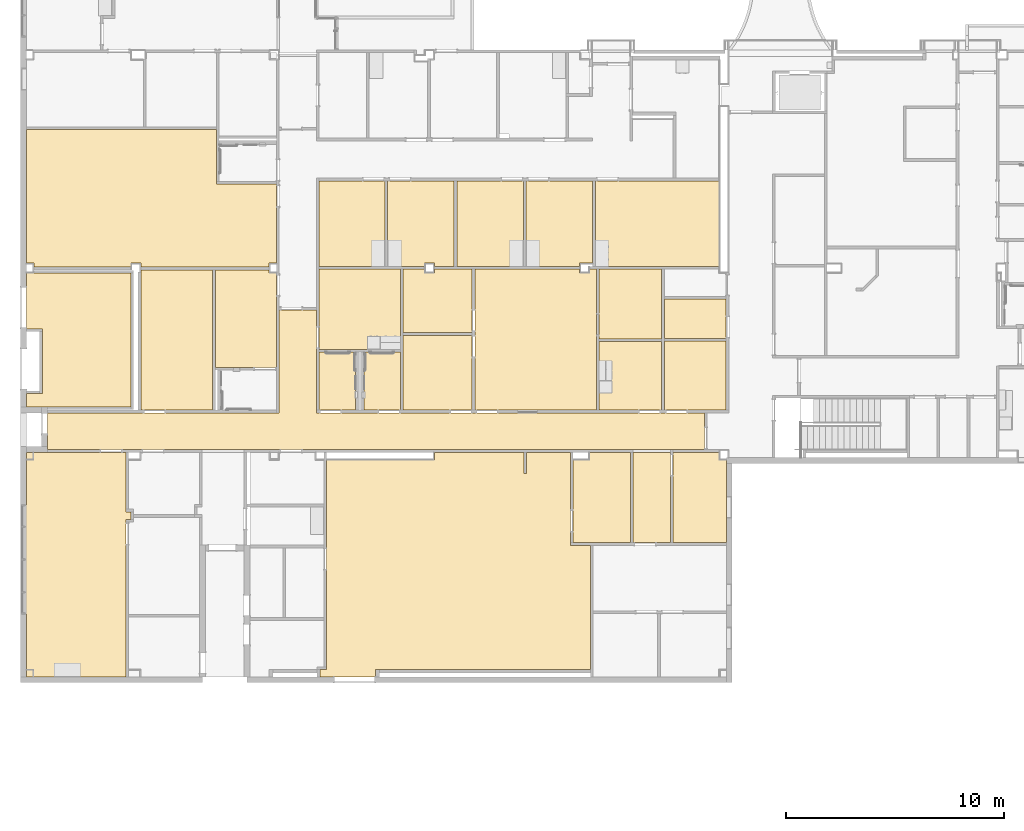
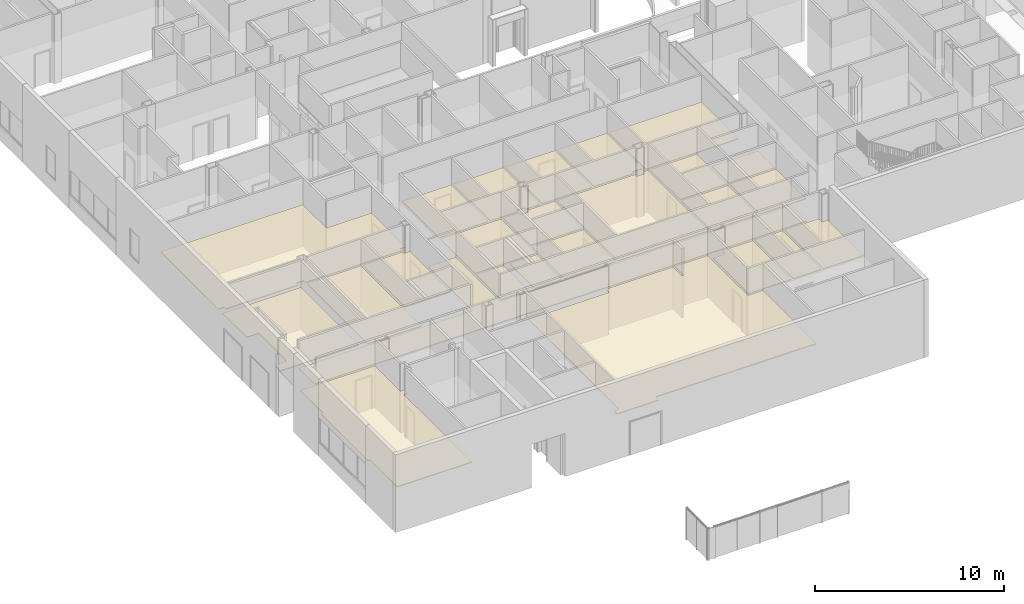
# One storey, part 49 of 87: 25 coverings.
"""IFC2X3 building model written with IfcOpenShell, lengths in metres."""

from ifc_helpers import new_model, entity, si_unit, converted_unit, origin, place, context, project, spatial, face_set, surface_model, material, layer, layer_set, layer_usage, element, save


model = new_model("IFC2X3")

# Units and contexts
model_context = context("Model", 3, precision=1e-09, world=origin())
plan_context = context("Plan", 3, precision=1e-09, world=origin())
ifc_project = project(units=[si_unit("LENGTHUNIT", "METRE"), si_unit("AREAUNIT", "SQUARE_METRE"), si_unit("VOLUMEUNIT", "CUBIC_METRE"), converted_unit("PLANEANGLEUNIT", "DEGREE", entity("IfcRatioMeasure", 0.01745329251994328), si_unit("PLANEANGLEUNIT", "RADIAN"), dimensions=[0, 0, 0, 0, 0, 0, 0]), si_unit("TIMEUNIT", "SECOND")], contexts=[model_context, plan_context])

# Site, building, storey
site_placement = place(None, origin())
site = spatial("IfcSite", under=ifc_project, at=site_placement, Name="Default", CompositionType="ELEMENT")
building_placement = place(site_placement, origin())
building = spatial("IfcBuilding", under=site, at=building_placement, CompositionType="ELEMENT")
storey_placement = place(building_placement, origin())
storey = spatial("IfcBuildingStorey", under=building, at=storey_placement, Name="First Floor", CompositionType="ELEMENT", Elevation=-3.531500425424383e-13)

# Coverings
ifc_material_1 = material(Name="Default")
ifc_layer_1 = layer(ifc_material_1, 0.03599999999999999)
ifc_material_2 = material(Name="Ceiling Tile 600 x 600")
ifc_layer_2 = layer(ifc_material_2, 0.016)
ifc_layer_set = layer_set([ifc_layer_1, ifc_layer_2], Name="Compound Ceiling:ACT 600 x 600mm Grid")
ifc_layer_usage_1 = layer_usage(ifc_layer_set, "AXIS3", "NEGATIVE", 0.0)
covering_1_placement = place(storey_placement, origin())
element("IfcCovering", 1, at=covering_1_placement, inside=storey, material=ifc_layer_usage_1, Name="Compound Ceiling:ACT 600 x 600mm Grid", ObjectType="Compound Ceiling:ACT 600 x 600mm Grid", PredefinedType="CEILING", context=model_context, shape_type="SurfaceModel", body=[
    surface_model("IfcFaceBasedSurfaceModel", [(-51.67000000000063, 18.83999999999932, 2.732), (-52.01300000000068, 18.83999999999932, 2.732), (-52.01300000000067, 24.95999999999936, 2.732), (-43.31000000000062, 24.95999999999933, 2.732), (-43.31000000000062, 22.45999999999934, 2.732), (-40.55400000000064, 22.45999999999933, 2.732), (-40.55400000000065, 18.83999999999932, 2.732), (-40.89000000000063, 18.83999999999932, 2.732), (-40.89000000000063, 18.64999999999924, 2.732), (-46.77000000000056, 18.64999999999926, 2.732), (-46.77000000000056, 18.83999999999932, 2.732), (-47.23000000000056, 18.83999999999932, 2.732), (-47.23000000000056, 18.64999999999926, 2.732), (-51.67000000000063, 18.64999999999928, 2.732), (-51.67000000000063, 18.83999999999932, 2.68), (-52.01300000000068, 18.83999999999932, 2.68), (-52.01300000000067, 24.95999999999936, 2.68), (-43.31000000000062, 24.95999999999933, 2.68), (-43.31000000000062, 22.45999999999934, 2.68), (-40.55400000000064, 22.45999999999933, 2.68), (-40.55400000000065, 18.83999999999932, 2.68), (-40.89000000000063, 18.83999999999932, 2.68), (-40.89000000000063, 18.64999999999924, 2.68), (-46.77000000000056, 18.64999999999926, 2.68), (-46.77000000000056, 18.83999999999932, 2.68), (-47.23000000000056, 18.83999999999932, 2.68), (-47.23000000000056, 18.64999999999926, 2.68), (-51.67000000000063, 18.64999999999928, 2.68)], [face_set([[[0, 1, 2, 3, 4, 5, 6, 7, 8, 9, 10, 11, 12, 13]], [[14, 15, 16, 17, 18, 19, 20, 21, 22, 23, 24, 25, 26, 27]], [[13, 27, 14, 0]], [[12, 13, 27, 26]], [[11, 12, 26, 25]], [[10, 11, 25, 24]], [[9, 23, 24, 10]], [[8, 9, 23, 22]], [[7, 8, 22, 21]], [[6, 7, 21, 20]], [[5, 6, 20, 19]], [[4, 18, 19, 5]], [[3, 4, 18, 17]], [[2, 16, 17, 3]], [[1, 15, 16, 2]], [[0, 1, 15, 14]]])]),
])
ifc_layer_usage_2 = layer_usage(ifc_layer_set, "AXIS3", "NEGATIVE", 0.0)
covering_2_placement = place(storey_placement, origin())
element("IfcCovering", 2, at=covering_2_placement, inside=storey, material=ifc_layer_usage_2, Name="Compound Ceiling:ACT 600 x 600mm Grid", ObjectType="Compound Ceiling:ACT 600 x 600mm Grid", PredefinedType="CEILING", context=model_context, shape_type="SurfaceModel", body=[
    surface_model("IfcFaceBasedSurfaceModel", [(-47.23000000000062, 12.24699999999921, 2.732), (-51.18250000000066, 12.24699999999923, 2.732), (-52.01300000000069, 12.24699999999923, 2.732), (-52.01300000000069, 12.85999999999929, 2.732), (-51.28000000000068, 12.85999999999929, 2.732), (-51.28000000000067, 15.8297999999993, 2.732), (-52.01300000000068, 15.8297999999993, 2.732), (-52.01300000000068, 18.37999999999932, 2.732), (-47.2300000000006, 18.37999999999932, 2.732), (-47.23000000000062, 12.24699999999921, 2.68), (-51.18250000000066, 12.24699999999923, 2.68), (-52.01300000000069, 12.24699999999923, 2.68), (-52.01300000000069, 12.85999999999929, 2.68), (-51.28000000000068, 12.85999999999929, 2.68), (-51.28000000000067, 15.8297999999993, 2.68), (-52.01300000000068, 15.8297999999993, 2.68), (-52.01300000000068, 18.37999999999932, 2.68), (-47.2300000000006, 18.37999999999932, 2.68)], [face_set([[[0, 1, 2, 3, 4, 5, 6, 7, 8]], [[9, 10, 11, 12, 13, 14, 15, 16, 17]], [[8, 0, 9, 17]], [[7, 16, 17, 8]], [[6, 15, 16, 7]], [[5, 6, 15, 14]], [[4, 13, 14, 5]], [[3, 12, 13, 4]], [[2, 11, 12, 3]], [[1, 2, 11, 10]], [[0, 1, 10, 9]]])]),
])
ifc_layer_usage_3 = layer_usage(ifc_layer_set, "AXIS3", "NEGATIVE", 0.0)
covering_3_placement = place(storey_placement, origin())
element("IfcCovering", 3, at=covering_3_placement, inside=storey, material=ifc_layer_usage_3, Name="Compound Ceiling:ACT 600 x 600mm Grid", ObjectType="Compound Ceiling:ACT 600 x 600mm Grid", PredefinedType="CEILING", context=model_context, shape_type="SurfaceModel", body=[
    surface_model("IfcFaceBasedSurfaceModel", [(-46.77000000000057, 12.10399999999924, 2.732), (-46.77000000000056, 18.52599999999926, 2.732), (-43.4780000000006, 18.52599999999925, 2.732), (-43.47800000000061, 12.10399999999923, 2.732), (-46.77000000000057, 12.10399999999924, 2.68), (-46.77000000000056, 18.52599999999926, 2.68), (-43.4780000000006, 18.52599999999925, 2.68), (-43.47800000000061, 12.10399999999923, 2.68)], [face_set([[[0, 1, 2, 3]], [[4, 5, 6, 7]], [[3, 0, 4, 7]], [[2, 3, 7, 6]], [[1, 5, 6, 2]], [[0, 4, 5, 1]]])]),
])
ifc_layer_usage_4 = layer_usage(ifc_layer_set, "AXIS3", "NEGATIVE", 0.0)
covering_4_placement = place(storey_placement, origin())
element("IfcCovering", 4, at=covering_4_placement, inside=storey, material=ifc_layer_usage_4, Name="Compound Ceiling:ACT 600 x 600mm Grid", ObjectType="Compound Ceiling:ACT 600 x 600mm Grid", PredefinedType="CEILING", context=model_context, shape_type="SurfaceModel", body=[
    surface_model("IfcFaceBasedSurfaceModel", [(-47.45000000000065, 7.089999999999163, 2.732), (-47.45000000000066, -0.1130000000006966, 2.732), (-52.01300000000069, -0.1130000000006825, 2.732), (-52.01300000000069, 2.759486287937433, 2.732), (-52.14650000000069, 2.759486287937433, 2.732), (-52.14650000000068, 7.759999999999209, 2.732), (-52.01300000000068, 7.759999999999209, 2.732), (-52.01300000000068, 10.16299999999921, 2.732), (-51.18250000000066, 10.16299999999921, 2.732), (-47.45000000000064, 10.16299999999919, 2.732), (-47.45000000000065, 7.439999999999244, 2.732), (-47.22000000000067, 7.439999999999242, 2.732), (-47.22000000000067, 7.089999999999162, 2.732), (-47.45000000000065, 7.089999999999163, 2.68), (-47.45000000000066, -0.1130000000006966, 2.68), (-52.01300000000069, -0.1130000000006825, 2.68), (-52.01300000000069, 2.759486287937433, 2.68), (-52.14650000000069, 2.759486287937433, 2.68), (-52.14650000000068, 7.759999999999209, 2.68), (-52.01300000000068, 7.759999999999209, 2.68), (-52.01300000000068, 10.16299999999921, 2.68), (-51.18250000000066, 10.16299999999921, 2.68), (-47.45000000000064, 10.16299999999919, 2.68), (-47.45000000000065, 7.439999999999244, 2.68), (-47.22000000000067, 7.439999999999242, 2.68), (-47.22000000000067, 7.089999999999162, 2.68)], [face_set([[[0, 1, 2, 3, 4, 5, 6, 7, 8, 9, 10, 11, 12]], [[13, 14, 15, 16, 17, 18, 19, 20, 21, 22, 23, 24, 25]], [[12, 0, 13, 25]], [[11, 12, 25, 24]], [[10, 23, 24, 11]], [[9, 10, 23, 22]], [[8, 21, 22, 9]], [[7, 20, 21, 8]], [[6, 19, 20, 7]], [[5, 18, 19, 6]], [[4, 17, 18, 5]], [[3, 4, 17, 16]], [[2, 15, 16, 3]], [[1, 2, 15, 14]], [[0, 1, 14, 13]]])]),
])
ifc_layer_usage_5 = layer_usage(ifc_layer_set, "AXIS3", "NEGATIVE", 0.0)
covering_5_placement = place(storey_placement, origin())
element("IfcCovering", 5, at=covering_5_placement, inside=storey, material=ifc_layer_usage_5, Name="Compound Ceiling:ACT 600 x 600mm Grid", ObjectType="Compound Ceiling:ACT 600 x 600mm Grid", PredefinedType="CEILING", context=model_context, shape_type="SurfaceModel", body=[
    surface_model("IfcFaceBasedSurfaceModel", [(-24.34400000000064, 6.03399999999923, 2.732), (-26.96640000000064, 6.033999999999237, 2.732), (-26.96640000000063, 9.809999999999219, 2.732), (-26.21000000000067, 9.809999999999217, 2.732), (-26.21000000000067, 10.16299999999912, 2.732), (-24.34400000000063, 10.16299999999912, 2.732), (-24.34400000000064, 6.03399999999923, 2.68), (-26.96640000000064, 6.033999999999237, 2.68), (-26.96640000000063, 9.809999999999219, 2.68), (-26.21000000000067, 9.809999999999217, 2.68), (-26.21000000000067, 10.16299999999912, 2.68), (-24.34400000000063, 10.16299999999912, 2.68)], [face_set([[[0, 1, 2, 3, 4, 5]], [[6, 7, 8, 9, 10, 11]], [[5, 0, 6, 11]], [[4, 10, 11, 5]], [[3, 9, 10, 4]], [[2, 8, 9, 3]], [[1, 7, 8, 2]], [[0, 1, 7, 6]]])]),
])
ifc_layer_usage_6 = layer_usage(ifc_layer_set, "AXIS3", "NEGATIVE", 0.0)
covering_6_placement = place(storey_placement, origin())
element("IfcCovering", 6, at=covering_6_placement, inside=storey, material=ifc_layer_usage_6, Name="Compound Ceiling:ACT 600 x 600mm Grid", ObjectType="Compound Ceiling:ACT 600 x 600mm Grid", PredefinedType="CEILING", context=model_context, shape_type="SurfaceModel", body=[
    surface_model("IfcFaceBasedSurfaceModel", [(-20.29000000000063, 9.809999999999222, 2.732), (-19.94700000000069, 9.80999999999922, 2.732), (-19.94700000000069, 6.033999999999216, 2.732), (-22.38600000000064, 6.033999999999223, 2.732), (-22.38600000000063, 10.16299999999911, 2.732), (-20.29000000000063, 10.1629999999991, 2.732), (-20.29000000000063, 9.809999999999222, 2.68), (-19.94700000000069, 9.80999999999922, 2.68), (-19.94700000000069, 6.033999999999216, 2.68), (-22.38600000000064, 6.033999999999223, 2.68), (-22.38600000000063, 10.16299999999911, 2.68), (-20.29000000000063, 10.1629999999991, 2.68)], [face_set([[[0, 1, 2, 3, 4, 5]], [[6, 7, 8, 9, 10, 11]], [[5, 0, 6, 11]], [[4, 10, 11, 5]], [[3, 9, 10, 4]], [[2, 3, 9, 8]], [[1, 2, 8, 7]], [[0, 6, 7, 1]]])]),
])
ifc_layer_usage_7 = layer_usage(ifc_layer_set, "AXIS3", "NEGATIVE", 0.0)
covering_7_placement = place(storey_placement, origin())
element("IfcCovering", 7, at=covering_7_placement, inside=storey, material=ifc_layer_usage_7, Name="Compound Ceiling:ACT 600 x 600mm Grid", ObjectType="Compound Ceiling:ACT 600 x 600mm Grid", PredefinedType="CEILING", context=model_context, shape_type="SurfaceModel", body=[
    surface_model("IfcFaceBasedSurfaceModel", [(-36.01040000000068, 0.2299999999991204, 2.732), (-36.01040000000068, -0.1130000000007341, 2.732), (-38.57040000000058, -0.1130000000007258, 2.732), (-38.57040000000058, 0.2147282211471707, 2.732), (-38.25539926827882, 0.2147282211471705, 2.732), (-38.25539926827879, 9.809999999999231, 2.732), (-33.32000000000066, 9.809999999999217, 2.732), (-33.32000000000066, 10.16299999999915, 2.732), (-29.21440000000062, 10.16299999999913, 2.732), (-29.21440000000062, 9.209999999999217, 2.732), (-29.09040000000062, 9.209999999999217, 2.732), (-29.09040000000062, 10.16299999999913, 2.732), (-27.09040000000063, 10.16299999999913, 2.732), (-27.09040000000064, 5.909999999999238, 2.732), (-26.17400000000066, 5.909999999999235, 2.732), (-26.17400000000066, 0.2299999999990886, 2.732), (-36.01040000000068, 0.2299999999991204, 2.68), (-36.01040000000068, -0.1130000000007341, 2.68), (-38.57040000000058, -0.1130000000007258, 2.68), (-38.57040000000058, 0.2147282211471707, 2.68), (-38.25539926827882, 0.2147282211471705, 2.68), (-38.25539926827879, 9.809999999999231, 2.68), (-33.32000000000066, 9.809999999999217, 2.68), (-33.32000000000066, 10.16299999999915, 2.68), (-29.21440000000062, 10.16299999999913, 2.68), (-29.21440000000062, 9.209999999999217, 2.68), (-29.09040000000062, 9.209999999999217, 2.68), (-29.09040000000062, 10.16299999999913, 2.68), (-27.09040000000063, 10.16299999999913, 2.68), (-27.09040000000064, 5.909999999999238, 2.68), (-26.17400000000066, 5.909999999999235, 2.68), (-26.17400000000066, 0.229999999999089, 2.68)], [face_set([[[0, 1, 2, 3, 4, 5, 6, 7, 8, 9, 10, 11, 12, 13, 14, 15]], [[16, 17, 18, 19, 20, 21, 22, 23, 24, 25, 26, 27, 28, 29, 30, 31]], [[15, 0, 16, 31]], [[14, 15, 31, 30]], [[13, 29, 30, 14]], [[12, 13, 29, 28]], [[11, 27, 28, 12]], [[10, 26, 27, 11]], [[9, 25, 26, 10]], [[8, 9, 25, 24]], [[7, 23, 24, 8]], [[6, 22, 23, 7]], [[5, 21, 22, 6]], [[4, 20, 21, 5]], [[3, 19, 20, 4]], [[2, 18, 19, 3]], [[1, 2, 18, 17]], [[0, 1, 17, 16]]])]),
])
ifc_layer_usage_8 = layer_usage(ifc_layer_set, "AXIS3", "NEGATIVE", 0.0)
covering_8_placement = place(storey_placement, origin())
element("IfcCovering", 8, at=covering_8_placement, inside=storey, material=ifc_layer_usage_8, Name="Compound Ceiling:ACT 600 x 600mm Grid", ObjectType="Compound Ceiling:ACT 600 x 600mm Grid", PredefinedType="CEILING", context=model_context, shape_type="SurfaceModel", body=[
    surface_model("IfcFaceBasedSurfaceModel", [(-34.87400000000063, 14.8899999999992, 2.732), (-38.59600000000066, 14.88999999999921, 2.732), (-38.59600000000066, 18.55999999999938, 2.732), (-34.87400000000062, 18.55999999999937, 2.732), (-34.87400000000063, 14.8899999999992, 2.68), (-38.59600000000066, 14.88999999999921, 2.68), (-38.59600000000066, 18.55999999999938, 2.68), (-34.87400000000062, 18.55999999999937, 2.68)], [face_set([[[0, 1, 2, 3]], [[4, 5, 6, 7]], [[3, 0, 4, 7]], [[2, 6, 7, 3]], [[1, 5, 6, 2]], [[0, 1, 5, 4]]])]),
])
ifc_layer_usage_9 = layer_usage(ifc_layer_set, "AXIS3", "NEGATIVE", 0.0)
covering_9_placement = place(storey_placement, origin())
element("IfcCovering", 9, at=covering_9_placement, inside=storey, material=ifc_layer_usage_9, Name="Compound Ceiling:ACT 600 x 600mm Grid", ObjectType="Compound Ceiling:ACT 600 x 600mm Grid", PredefinedType="CEILING", context=model_context, shape_type="SurfaceModel", body=[
    surface_model("IfcFaceBasedSurfaceModel", [(-33.32000000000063, 18.37999999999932, 2.732), (-33.78000000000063, 18.37999999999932, 2.732), (-33.78000000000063, 18.55999999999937, 2.732), (-34.75000000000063, 18.55999999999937, 2.732), (-34.75000000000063, 15.64999999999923, 2.732), (-31.59400000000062, 15.64999999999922, 2.732), (-31.59400000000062, 18.55999999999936, 2.732), (-33.32000000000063, 18.55999999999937, 2.732), (-33.32000000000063, 18.37999999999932, 2.68), (-33.32000000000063, 18.55999999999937, 2.68), (-31.59400000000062, 18.55999999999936, 2.68), (-31.59400000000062, 15.64999999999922, 2.68), (-34.75000000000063, 15.64999999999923, 2.68), (-34.75000000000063, 18.55999999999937, 2.68), (-33.78000000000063, 18.55999999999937, 2.68), (-33.78000000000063, 18.37999999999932, 2.68)], [face_set([[[0, 1, 2, 3, 4, 5, 6, 7]], [[8, 9, 10, 11, 12, 13, 14, 15]], [[1, 15, 8, 0]], [[2, 1, 15, 14]], [[3, 13, 14, 2]], [[4, 12, 13, 3]], [[5, 4, 12, 11]], [[6, 5, 11, 10]], [[7, 9, 10, 6]], [[0, 8, 9, 7]]])]),
])
ifc_layer_usage_10 = layer_usage(ifc_layer_set, "AXIS3", "NEGATIVE", 0.0)
covering_10_placement = place(storey_placement, origin())
element("IfcCovering", 10, at=covering_10_placement, inside=storey, material=ifc_layer_usage_10, Name="Compound Ceiling:ACT 600 x 600mm Grid", ObjectType="Compound Ceiling:ACT 600 x 600mm Grid", PredefinedType="CEILING", context=model_context, shape_type="SurfaceModel", body=[
    surface_model("IfcFaceBasedSurfaceModel", [(-36.92500000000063, 14.76599999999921, 2.732), (-36.92500000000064, 12.10399999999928, 2.732), (-38.59600000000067, 12.10399999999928, 2.732), (-38.59600000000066, 14.76599999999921, 2.732), (-36.92500000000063, 14.76599999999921, 2.68), (-36.92500000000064, 12.10399999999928, 2.68), (-38.59600000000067, 12.10399999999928, 2.68), (-38.59600000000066, 14.76599999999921, 2.68)], [face_set([[[0, 1, 2, 3]], [[4, 5, 6, 7]], [[3, 7, 4, 0]], [[2, 6, 7, 3]], [[1, 2, 6, 5]], [[0, 1, 5, 4]]])]),
])
ifc_layer_usage_11 = layer_usage(ifc_layer_set, "AXIS3", "NEGATIVE", 0.0)
covering_11_placement = place(storey_placement, origin())
element("IfcCovering", 11, at=covering_11_placement, inside=storey, material=ifc_layer_usage_11, Name="Compound Ceiling:ACT 600 x 600mm Grid", ObjectType="Compound Ceiling:ACT 600 x 600mm Grid", PredefinedType="CEILING", context=model_context, shape_type="SurfaceModel", body=[
    surface_model("IfcFaceBasedSurfaceModel", [(-34.87400000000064, 12.10399999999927, 2.732), (-36.54500000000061, 12.10399999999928, 2.732), (-36.54500000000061, 14.76599999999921, 2.732), (-34.87400000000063, 14.7659999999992, 2.732), (-34.87400000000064, 12.10399999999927, 2.68), (-36.54500000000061, 12.10399999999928, 2.68), (-36.54500000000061, 14.76599999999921, 2.68), (-34.87400000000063, 14.7659999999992, 2.68)], [face_set([[[0, 1, 2, 3]], [[4, 5, 6, 7]], [[3, 0, 4, 7]], [[2, 6, 7, 3]], [[1, 5, 6, 2]], [[0, 1, 5, 4]]])]),
])
ifc_layer_usage_12 = layer_usage(ifc_layer_set, "AXIS3", "NEGATIVE", 0.0)
covering_12_placement = place(storey_placement, origin())
element("IfcCovering", 12, at=covering_12_placement, inside=storey, material=ifc_layer_usage_12, Name="Compound Ceiling:ACT 600 x 600mm Grid", ObjectType="Compound Ceiling:ACT 600 x 600mm Grid", PredefinedType="CEILING", context=model_context, shape_type="SurfaceModel", body=[
    surface_model("IfcFaceBasedSurfaceModel", [(-31.59400000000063, 12.10399999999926, 2.732), (-34.75000000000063, 12.10399999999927, 2.732), (-34.75000000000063, 15.52599999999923, 2.732), (-31.59400000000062, 15.52599999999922, 2.732), (-31.59400000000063, 12.10399999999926, 2.68), (-34.75000000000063, 12.10399999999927, 2.68), (-34.75000000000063, 15.52599999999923, 2.68), (-31.59400000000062, 15.52599999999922, 2.68)], [face_set([[[0, 1, 2, 3]], [[4, 5, 6, 7]], [[3, 0, 4, 7]], [[2, 6, 7, 3]], [[1, 5, 6, 2]], [[0, 1, 5, 4]]])]),
])
ifc_layer_usage_13 = layer_usage(ifc_layer_set, "AXIS3", "NEGATIVE", 0.0)
covering_13_placement = place(storey_placement, origin())
element("IfcCovering", 13, at=covering_13_placement, inside=storey, material=ifc_layer_usage_13, Name="Compound Ceiling:ACT 600 x 600mm Grid", ObjectType="Compound Ceiling:ACT 600 x 600mm Grid", PredefinedType="CEILING", context=model_context, shape_type="SurfaceModel", body=[
    surface_model("IfcFaceBasedSurfaceModel", [(-25.90000000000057, 18.55999999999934, 2.732), (-25.90000000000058, 12.10399999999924, 2.732), (-31.47000000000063, 12.10399999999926, 2.732), (-31.47000000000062, 18.55999999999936, 2.732), (-26.67000000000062, 18.55999999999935, 2.732), (-26.67000000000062, 18.37999999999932, 2.732), (-26.21000000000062, 18.37999999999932, 2.732), (-26.21000000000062, 18.55999999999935, 2.732), (-25.90000000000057, 18.55999999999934, 2.68), (-25.90000000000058, 12.10399999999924, 2.68), (-31.47000000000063, 12.10399999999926, 2.68), (-31.47000000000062, 18.55999999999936, 2.68), (-26.67000000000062, 18.55999999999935, 2.68), (-26.67000000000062, 18.37999999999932, 2.68), (-26.21000000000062, 18.37999999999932, 2.68), (-26.21000000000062, 18.55999999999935, 2.68)], [face_set([[[0, 1, 2, 3, 4, 5, 6, 7]], [[8, 9, 10, 11, 12, 13, 14, 15]], [[7, 15, 8, 0]], [[6, 14, 15, 7]], [[5, 13, 14, 6]], [[4, 5, 13, 12]], [[3, 11, 12, 4]], [[2, 10, 11, 3]], [[1, 2, 10, 9]], [[0, 1, 9, 8]]])]),
])
ifc_layer_usage_14 = layer_usage(ifc_layer_set, "AXIS3", "NEGATIVE", 0.0)
covering_14_placement = place(storey_placement, origin())
element("IfcCovering", 14, at=covering_14_placement, inside=storey, material=ifc_layer_usage_14, Name="Compound Ceiling:ACT 600 x 600mm Grid", ObjectType="Compound Ceiling:ACT 600 x 600mm Grid", PredefinedType="CEILING", context=model_context, shape_type="SurfaceModel", body=[
    surface_model("IfcFaceBasedSurfaceModel", [(-25.77600000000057, 18.55999999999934, 2.732), (-22.91000000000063, 18.55999999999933, 2.732), (-22.91000000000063, 15.35999999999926, 2.732), (-25.77600000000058, 15.35999999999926, 2.732), (-25.77600000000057, 18.55999999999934, 2.68), (-22.91000000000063, 18.55999999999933, 2.68), (-22.91000000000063, 15.35999999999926, 2.68), (-25.77600000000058, 15.35999999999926, 2.68)], [face_set([[[0, 1, 2, 3]], [[4, 5, 6, 7]], [[3, 7, 4, 0]], [[2, 3, 7, 6]], [[1, 2, 6, 5]], [[0, 4, 5, 1]]])]),
])
ifc_layer_usage_15 = layer_usage(ifc_layer_set, "AXIS3", "NEGATIVE", 0.0)
covering_15_placement = place(storey_placement, origin())
element("IfcCovering", 15, at=covering_15_placement, inside=storey, material=ifc_layer_usage_15, Name="Compound Ceiling:ACT 600 x 600mm Grid", ObjectType="Compound Ceiling:ACT 600 x 600mm Grid", PredefinedType="CEILING", context=model_context, shape_type="SurfaceModel", body=[
    surface_model("IfcFaceBasedSurfaceModel", [(-22.91000000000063, 15.23599999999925, 2.732), (-22.91000000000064, 12.10399999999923, 2.732), (-25.77600000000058, 12.10399999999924, 2.732), (-25.77600000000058, 15.23599999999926, 2.732), (-22.91000000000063, 15.23599999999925, 2.68), (-22.91000000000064, 12.10399999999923, 2.68), (-25.77600000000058, 12.10399999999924, 2.68), (-25.77600000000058, 15.23599999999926, 2.68)], [face_set([[[0, 1, 2, 3]], [[4, 5, 6, 7]], [[3, 7, 4, 0]], [[2, 6, 7, 3]], [[1, 2, 6, 5]], [[0, 1, 5, 4]]])]),
])
ifc_layer_usage_16 = layer_usage(ifc_layer_set, "AXIS3", "NEGATIVE", 0.0)
covering_16_placement = place(storey_placement, origin())
element("IfcCovering", 16, at=covering_16_placement, inside=storey, material=ifc_layer_usage_16, Name="Compound Ceiling:ACT 600 x 600mm Grid", ObjectType="Compound Ceiling:ACT 600 x 600mm Grid", PredefinedType="CEILING", context=model_context, shape_type="SurfaceModel", body=[
    surface_model("IfcFaceBasedSurfaceModel", [(-19.95400000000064, 12.10399999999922, 2.732), (-22.78600000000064, 12.10399999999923, 2.732), (-22.78600000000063, 15.26999999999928, 2.732), (-19.95400000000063, 15.26999999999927, 2.732), (-19.95400000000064, 12.10399999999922, 2.68), (-22.78600000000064, 12.10399999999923, 2.68), (-22.78600000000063, 15.26999999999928, 2.68), (-19.95400000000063, 15.26999999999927, 2.68)], [face_set([[[0, 1, 2, 3]], [[4, 5, 6, 7]], [[3, 0, 4, 7]], [[2, 6, 7, 3]], [[1, 5, 6, 2]], [[0, 1, 5, 4]]])]),
])
ifc_layer_usage_17 = layer_usage(ifc_layer_set, "AXIS3", "NEGATIVE", 0.0)
covering_17_placement = place(storey_placement, origin())
element("IfcCovering", 17, at=covering_17_placement, inside=storey, material=ifc_layer_usage_17, Name="Compound Ceiling:ACT 600 x 600mm Grid", ObjectType="Compound Ceiling:ACT 600 x 600mm Grid", PredefinedType="CEILING", context=model_context, shape_type="SurfaceModel", body=[
    surface_model("IfcFaceBasedSurfaceModel", [(-22.78600000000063, 15.39399999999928, 2.732), (-22.78600000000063, 17.18999999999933, 2.732), (-19.95400000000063, 17.18999999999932, 2.732), (-19.95400000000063, 15.39399999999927, 2.732), (-22.78600000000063, 15.39399999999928, 2.68), (-22.78600000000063, 17.18999999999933, 2.68), (-19.95400000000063, 17.18999999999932, 2.68), (-19.95400000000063, 15.39399999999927, 2.68)], [face_set([[[0, 1, 2, 3]], [[4, 5, 6, 7]], [[3, 0, 4, 7]], [[2, 3, 7, 6]], [[1, 5, 6, 2]], [[0, 4, 5, 1]]])]),
])
ifc_layer_usage_18 = layer_usage(ifc_layer_set, "AXIS3", "NEGATIVE", 0.0)
covering_18_placement = place(storey_placement, origin())
element("IfcCovering", 18, at=covering_18_placement, inside=storey, material=ifc_layer_usage_18, Name="Compound Ceiling:ACT 600 x 600mm Grid", ObjectType="Compound Ceiling:ACT 600 x 600mm Grid", PredefinedType="CEILING", context=model_context, shape_type="SurfaceModel", body=[
    surface_model("IfcFaceBasedSurfaceModel", [(-38.59600000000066, 18.68399999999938, 2.732), (-38.59600000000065, 22.60599999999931, 2.732), (-35.58400000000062, 22.6059999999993, 2.732), (-35.58400000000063, 18.68399999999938, 2.732), (-38.59600000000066, 18.68399999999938, 2.68), (-38.59600000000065, 22.60599999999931, 2.68), (-35.58400000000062, 22.6059999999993, 2.68), (-35.58400000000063, 18.68399999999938, 2.68)], [face_set([[[0, 1, 2, 3]], [[4, 5, 6, 7]], [[3, 0, 4, 7]], [[2, 3, 7, 6]], [[1, 5, 6, 2]], [[0, 4, 5, 1]]])]),
])
ifc_layer_usage_19 = layer_usage(ifc_layer_set, "AXIS3", "NEGATIVE", 0.0)
covering_19_placement = place(storey_placement, origin())
element("IfcCovering", 19, at=covering_19_placement, inside=storey, material=ifc_layer_usage_19, Name="Compound Ceiling:ACT 600 x 600mm Grid", ObjectType="Compound Ceiling:ACT 600 x 600mm Grid", PredefinedType="CEILING", context=model_context, shape_type="SurfaceModel", body=[
    surface_model("IfcFaceBasedSurfaceModel", [(-35.46000000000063, 18.68399999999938, 2.732), (-35.46000000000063, 22.6059999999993, 2.732), (-32.41400000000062, 22.60599999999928, 2.732), (-32.41400000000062, 18.68399999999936, 2.732), (-33.32000000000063, 18.68399999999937, 2.732), (-33.32000000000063, 18.83999999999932, 2.732), (-33.78000000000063, 18.83999999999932, 2.732), (-33.78000000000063, 18.68399999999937, 2.732), (-35.46000000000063, 18.68399999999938, 2.68), (-35.46000000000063, 22.6059999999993, 2.68), (-32.41400000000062, 22.60599999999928, 2.68), (-32.41400000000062, 18.68399999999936, 2.68), (-33.32000000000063, 18.68399999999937, 2.68), (-33.32000000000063, 18.83999999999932, 2.68), (-33.78000000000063, 18.83999999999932, 2.68), (-33.78000000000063, 18.68399999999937, 2.68)], [face_set([[[0, 1, 2, 3, 4, 5, 6, 7]], [[8, 9, 10, 11, 12, 13, 14, 15]], [[7, 0, 8, 15]], [[6, 7, 15, 14]], [[5, 6, 14, 13]], [[4, 12, 13, 5]], [[3, 4, 12, 11]], [[2, 3, 11, 10]], [[1, 9, 10, 2]], [[0, 8, 9, 1]]])]),
])
ifc_layer_usage_20 = layer_usage(ifc_layer_set, "AXIS3", "NEGATIVE", 0.0)
covering_20_placement = place(storey_placement, origin())
element("IfcCovering", 20, at=covering_20_placement, inside=storey, material=ifc_layer_usage_20, Name="Compound Ceiling:ACT 600 x 600mm Grid", ObjectType="Compound Ceiling:ACT 600 x 600mm Grid", PredefinedType="CEILING", context=model_context, shape_type="SurfaceModel", body=[
    surface_model("IfcFaceBasedSurfaceModel", [(-32.29000000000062, 18.68399999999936, 2.732), (-32.29000000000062, 22.60599999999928, 2.732), (-29.24400000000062, 22.60599999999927, 2.732), (-29.24400000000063, 18.68399999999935, 2.732), (-32.29000000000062, 18.68399999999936, 2.68), (-32.29000000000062, 22.60599999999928, 2.68), (-29.24400000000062, 22.60599999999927, 2.68), (-29.24400000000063, 18.68399999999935, 2.68)], [face_set([[[0, 1, 2, 3]], [[4, 5, 6, 7]], [[3, 0, 4, 7]], [[2, 3, 7, 6]], [[1, 5, 6, 2]], [[0, 4, 5, 1]]])]),
])
ifc_layer_usage_21 = layer_usage(ifc_layer_set, "AXIS3", "NEGATIVE", 0.0)
covering_21_placement = place(storey_placement, origin())
element("IfcCovering", 21, at=covering_21_placement, inside=storey, material=ifc_layer_usage_21, Name="Compound Ceiling:ACT 600 x 600mm Grid", ObjectType="Compound Ceiling:ACT 600 x 600mm Grid", PredefinedType="CEILING", context=model_context, shape_type="SurfaceModel", body=[
    surface_model("IfcFaceBasedSurfaceModel", [(-29.12000000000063, 18.68399999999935, 2.732), (-29.12000000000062, 22.60599999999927, 2.732), (-26.07400000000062, 22.60599999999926, 2.732), (-26.07400000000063, 18.83999999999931, 2.732), (-26.67000000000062, 18.83999999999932, 2.732), (-26.67000000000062, 18.68399999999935, 2.732), (-29.12000000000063, 18.68399999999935, 2.68), (-29.12000000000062, 22.60599999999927, 2.68), (-26.07400000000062, 22.60599999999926, 2.68), (-26.07400000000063, 18.83999999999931, 2.68), (-26.67000000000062, 18.83999999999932, 2.68), (-26.67000000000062, 18.68399999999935, 2.68)], [face_set([[[0, 1, 2, 3, 4, 5]], [[6, 7, 8, 9, 10, 11]], [[5, 0, 6, 11]], [[4, 5, 11, 10]], [[3, 4, 10, 9]], [[2, 3, 9, 8]], [[1, 7, 8, 2]], [[0, 6, 7, 1]]])]),
])
ifc_layer_usage_22 = layer_usage(ifc_layer_set, "AXIS3", "NEGATIVE", 0.0)
covering_22_placement = place(storey_placement, origin())
element("IfcCovering", 22, at=covering_22_placement, inside=storey, material=ifc_layer_usage_22, Name="Compound Ceiling:ACT 600 x 600mm Grid", ObjectType="Compound Ceiling:ACT 600 x 600mm Grid", PredefinedType="CEILING", context=model_context, shape_type="SurfaceModel", body=[
    surface_model("IfcFaceBasedSurfaceModel", [(-25.95000000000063, 18.68399999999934, 2.732), (-25.95000000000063, 22.60599999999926, 2.732), (-20.29000000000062, 22.60599999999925, 2.732), (-20.29000000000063, 18.68399999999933, 2.732), (-25.95000000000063, 18.68399999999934, 2.68), (-25.95000000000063, 22.60599999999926, 2.68), (-20.29000000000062, 22.60599999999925, 2.68), (-20.29000000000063, 18.68399999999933, 2.68)], [face_set([[[0, 1, 2, 3]], [[4, 5, 6, 7]], [[3, 0, 4, 7]], [[2, 3, 7, 6]], [[1, 5, 6, 2]], [[0, 4, 5, 1]]])]),
])
ifc_layer_usage_23 = layer_usage(ifc_layer_set, "AXIS3", "NEGATIVE", 0.0)
covering_23_placement = place(storey_placement, origin())
element("IfcCovering", 23, at=covering_23_placement, inside=storey, material=ifc_layer_usage_23, Name="Compound Ceiling:ACT 600 x 600mm Grid", ObjectType="Compound Ceiling:ACT 600 x 600mm Grid", PredefinedType="CEILING", context=model_context, shape_type="SurfaceModel", body=[
    surface_model("IfcFaceBasedSurfaceModel", [(-44.02200000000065, 10.28699999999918, 2.732), (-51.04900000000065, 10.28699999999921, 2.732), (-51.04900000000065, 11.97999999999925, 2.732), (-40.43000000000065, 11.97999999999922, 2.732), (-40.43000000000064, 16.68999999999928, 2.732), (-38.72000000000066, 16.68999999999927, 2.732), (-38.72000000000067, 11.97999999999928, 2.732), (-20.95400000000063, 11.97999999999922, 2.732), (-20.95400000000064, 10.28699999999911, 2.732), (-22.44800000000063, 10.28699999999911, 2.732), (-24.28200000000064, 10.28699999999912, 2.732), (-41.97800000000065, 10.28699999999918, 2.732), (-44.02200000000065, 10.28699999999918, 2.68), (-51.04900000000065, 10.28699999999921, 2.68), (-51.04900000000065, 11.97999999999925, 2.68), (-40.43000000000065, 11.97999999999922, 2.68), (-40.43000000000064, 16.68999999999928, 2.68), (-38.72000000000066, 16.68999999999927, 2.68), (-38.72000000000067, 11.97999999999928, 2.68), (-20.95400000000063, 11.97999999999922, 2.68), (-20.95400000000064, 10.28699999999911, 2.68), (-22.44800000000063, 10.28699999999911, 2.68), (-24.28200000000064, 10.28699999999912, 2.68), (-41.97800000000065, 10.28699999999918, 2.68)], [face_set([[[0, 1, 2, 3, 4, 5, 6, 7, 8, 9, 10, 11]], [[12, 13, 14, 15, 16, 17, 18, 19, 20, 21, 22, 23]], [[11, 0, 12, 23]], [[10, 11, 23, 22]], [[9, 10, 22, 21]], [[8, 9, 21, 20]], [[7, 8, 20, 19]], [[6, 18, 19, 7]], [[5, 6, 18, 17]], [[4, 16, 17, 5]], [[3, 15, 16, 4]], [[2, 14, 15, 3]], [[1, 13, 14, 2]], [[0, 1, 13, 12]]])]),
])
ifc_layer_usage_24 = layer_usage(ifc_layer_set, "AXIS3", "NEGATIVE", 0.0)
covering_24_placement = place(storey_placement, origin())
element("IfcCovering", 24, at=covering_24_placement, inside=storey, material=ifc_layer_usage_24, Name="Compound Ceiling:ACT 600 x 600mm Grid", ObjectType="Compound Ceiling:ACT 600 x 600mm Grid", PredefinedType="CEILING", context=model_context, shape_type="SurfaceModel", body=[
    surface_model("IfcFaceBasedSurfaceModel", [(-22.51000000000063, 10.16299999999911, 2.732), (-22.51000000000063, 6.033999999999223, 2.732), (-24.22000000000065, 6.033999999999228, 2.732), (-24.22000000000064, 10.16299999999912, 2.732), (-22.51000000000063, 10.16299999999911, 2.68), (-22.51000000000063, 6.033999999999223, 2.68), (-24.22000000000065, 6.033999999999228, 2.68), (-24.22000000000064, 10.16299999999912, 2.68)], [face_set([[[0, 1, 2, 3]], [[4, 5, 6, 7]], [[3, 7, 4, 0]], [[2, 6, 7, 3]], [[1, 2, 6, 5]], [[0, 1, 5, 4]]])]),
])
ifc_layer_usage_25 = layer_usage(ifc_layer_set, "AXIS3", "NEGATIVE", 0.0)
covering_25_placement = place(storey_placement, origin())
element("IfcCovering", 25, at=covering_25_placement, inside=storey, material=ifc_layer_usage_25, Name="Compound Ceiling:ACT 600 x 600mm Grid", ObjectType="Compound Ceiling:ACT 600 x 600mm Grid", PredefinedType="CEILING", context=model_context, shape_type="SurfaceModel", body=[
    surface_model("IfcFaceBasedSurfaceModel", [(-40.89000000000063, 18.52599999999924, 2.732), (-40.89000000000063, 18.37999999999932, 2.732), (-40.55400000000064, 18.37999999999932, 2.732), (-40.55400000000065, 14.0599999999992, 2.732), (-43.35400000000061, 14.05999999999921, 2.732), (-43.3540000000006, 18.52599999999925, 2.732), (-40.89000000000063, 18.52599999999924, 2.68), (-43.3540000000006, 18.52599999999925, 2.68), (-43.35400000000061, 14.05999999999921, 2.68), (-40.55400000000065, 14.0599999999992, 2.68), (-40.55400000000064, 18.37999999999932, 2.68), (-40.89000000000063, 18.37999999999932, 2.68)], [face_set([[[0, 1, 2, 3, 4, 5]], [[6, 7, 8, 9, 10, 11]], [[5, 7, 6, 0]], [[4, 8, 7, 5]], [[3, 4, 8, 9]], [[2, 3, 9, 10]], [[1, 11, 10, 2]], [[0, 1, 11, 6]]])]),
])

save(model, "model.ifc")
